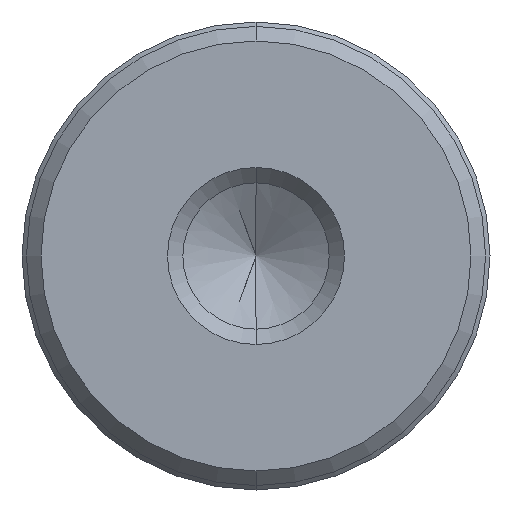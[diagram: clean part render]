
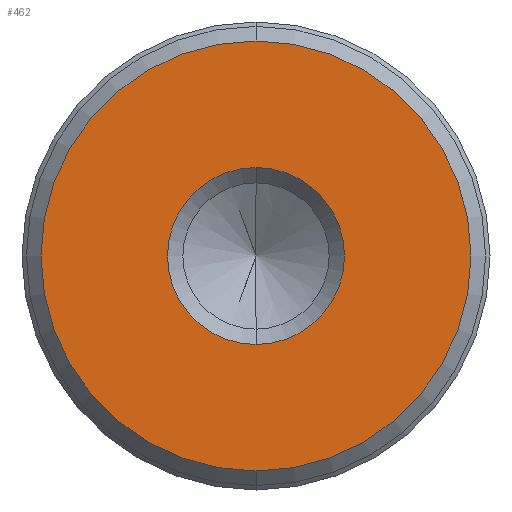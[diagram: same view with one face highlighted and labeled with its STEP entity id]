
A CAD part, front view. The second image highlights one B-rep face of the part: STEP entity #462.
In plain terms, the highlighted planar face has unit normal (0, -1, 0).
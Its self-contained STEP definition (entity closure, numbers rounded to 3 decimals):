
#40 = AXIS2_PLACEMENT_3D ( 'NONE', #1060, #1052, #974 ) ;
#83 = DIRECTION ( 'NONE',  ( 0., 0., 1. ) ) ;
#140 = EDGE_CURVE ( 'NONE', #1780, #819, #2519, .T. ) ;
#185 = EDGE_LOOP ( 'NONE', ( #1448, #843 ) ) ;
#205 = CIRCLE ( 'NONE', #40, 7.35 ) ;
#462 = ADVANCED_FACE ( 'NONE', ( #2971, #1694 ), #1417, .F. ) ;
#483 = CARTESIAN_POINT ( 'NONE',  ( 0., -14., 3.025 ) ) ;
#540 = CIRCLE ( 'NONE', #1590, 3.025 ) ;
#731 = DIRECTION ( 'NONE',  ( 0., 1., 0. ) ) ;
#754 = ORIENTED_EDGE ( 'NONE', *, *, #140, .F. ) ;
#811 = DIRECTION ( 'NONE',  ( 0., -1., 0. ) ) ;
#819 = VERTEX_POINT ( 'NONE', #2055 ) ;
#843 = ORIENTED_EDGE ( 'NONE', *, *, #2223, .F. ) ;
#908 = AXIS2_PLACEMENT_3D ( 'NONE', #980, #731, #1468 ) ;
#974 = DIRECTION ( 'NONE',  ( 0., 0., 1. ) ) ;
#980 = CARTESIAN_POINT ( 'NONE',  ( 0., -14., 0. ) ) ;
#1032 = CARTESIAN_POINT ( 'NONE',  ( 0., -14., 7.35 ) ) ;
#1037 = DIRECTION ( 'NONE',  ( 0., 1., 0. ) ) ;
#1048 = AXIS2_PLACEMENT_3D ( 'NONE', #2749, #1037, #83 ) ;
#1052 = DIRECTION ( 'NONE',  ( 0., 1., 0. ) ) ;
#1060 = CARTESIAN_POINT ( 'NONE',  ( 0., -14., 0. ) ) ;
#1072 = DIRECTION ( 'NONE',  ( 0., -1., 0. ) ) ;
#1082 = DIRECTION ( 'NONE',  ( 0., 0., -1. ) ) ;
#1172 = EDGE_LOOP ( 'NONE', ( #1900, #754 ) ) ;
#1182 = CARTESIAN_POINT ( 'NONE',  ( 0., -14., 0. ) ) ;
#1328 = CARTESIAN_POINT ( 'NONE',  ( 0., -14., 0. ) ) ;
#1417 = PLANE ( 'NONE',  #1048 ) ;
#1421 = EDGE_CURVE ( 'NONE', #819, #1780, #540, .T. ) ;
#1448 = ORIENTED_EDGE ( 'NONE', *, *, #2428, .F. ) ;
#1468 = DIRECTION ( 'NONE',  ( 0., 0., 1. ) ) ;
#1590 = AXIS2_PLACEMENT_3D ( 'NONE', #1182, #1072, #1082 ) ;
#1626 = VERTEX_POINT ( 'NONE', #3012 ) ;
#1694 = FACE_OUTER_BOUND ( 'NONE', #185, .T. ) ;
#1780 = VERTEX_POINT ( 'NONE', #483 ) ;
#1900 = ORIENTED_EDGE ( 'NONE', *, *, #1421, .F. ) ;
#2055 = CARTESIAN_POINT ( 'NONE',  ( 0., -14., -3.025 ) ) ;
#2115 = AXIS2_PLACEMENT_3D ( 'NONE', #1328, #811, #2530 ) ;
#2223 = EDGE_CURVE ( 'NONE', #1626, #2960, #3032, .T. ) ;
#2428 = EDGE_CURVE ( 'NONE', #2960, #1626, #205, .T. ) ;
#2519 = CIRCLE ( 'NONE', #2115, 3.025 ) ;
#2530 = DIRECTION ( 'NONE',  ( 0., 0., -1. ) ) ;
#2749 = CARTESIAN_POINT ( 'NONE',  ( 0., -14., 0. ) ) ;
#2960 = VERTEX_POINT ( 'NONE', #1032 ) ;
#2971 = FACE_BOUND ( 'NONE', #1172, .T. ) ;
#3012 = CARTESIAN_POINT ( 'NONE',  ( 0., -14., -7.35 ) ) ;
#3032 = CIRCLE ( 'NONE', #908, 7.35 ) ;
